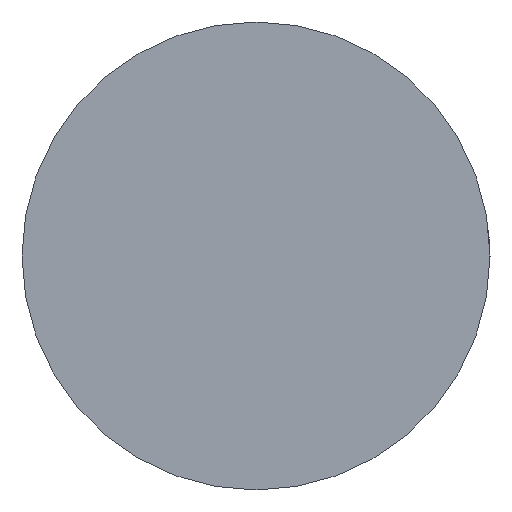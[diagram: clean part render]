
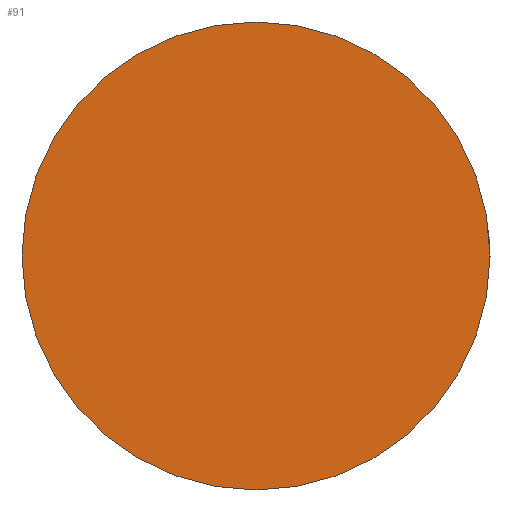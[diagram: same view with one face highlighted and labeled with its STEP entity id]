
A CAD part, left-side view. The second image highlights one B-rep face of the part: STEP entity #91.
In plain terms, the highlighted planar face has unit normal (-1, 0, 0).
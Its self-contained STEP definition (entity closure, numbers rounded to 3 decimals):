
#52=CARTESIAN_POINT('Axis2P3D Location',(0.,0.,0.)) ;
#57=CARTESIAN_POINT('Axis2P3D Location',(0.,0.,0.)) ;
#61=CARTESIAN_POINT('Vertex',(0.,0.,-39.)) ;
#63=CARTESIAN_POINT('Vertex',(0.,39.,0.)) ;
#66=CARTESIAN_POINT('Axis2P3D Location',(0.,0.,0.)) ;
#70=CARTESIAN_POINT('Vertex',(0.,-39.,0.)) ;
#73=CARTESIAN_POINT('Axis2P3D Location',(0.,0.,0.)) ;
#77=CARTESIAN_POINT('Vertex',(0.,0.,39.)) ;
#80=CARTESIAN_POINT('Axis2P3D Location',(0.,0.,0.)) ;
#53=DIRECTION('Axis2P3D Direction',(1.,0.,-0.)) ;
#54=DIRECTION('Axis2P3D XDirection',(-0.,0.,-1.)) ;
#58=DIRECTION('Axis2P3D Direction',(1.,0.,-0.)) ;
#67=DIRECTION('Axis2P3D Direction',(1.,0.,-0.)) ;
#74=DIRECTION('Axis2P3D Direction',(1.,0.,-0.)) ;
#81=DIRECTION('Axis2P3D Direction',(1.,0.,-0.)) ;
#55=AXIS2_PLACEMENT_3D('Plane Axis2P3D',#52,#53,#54) ;
#59=AXIS2_PLACEMENT_3D('Circle Axis2P3D',#57,#58,$) ;
#68=AXIS2_PLACEMENT_3D('Circle Axis2P3D',#66,#67,$) ;
#75=AXIS2_PLACEMENT_3D('Circle Axis2P3D',#73,#74,$) ;
#82=AXIS2_PLACEMENT_3D('Circle Axis2P3D',#80,#81,$) ;
#86=ORIENTED_EDGE('',*,*,#65,.F.) ;
#87=ORIENTED_EDGE('',*,*,#72,.F.) ;
#88=ORIENTED_EDGE('',*,*,#79,.F.) ;
#89=ORIENTED_EDGE('',*,*,#84,.F.) ;
#91=ADVANCED_FACE('395PSF-8',(#90),#56,.F.) ;
#60=CIRCLE('generated circle',#59,39.) ;
#69=CIRCLE('generated circle',#68,39.) ;
#76=CIRCLE('generated circle',#75,39.) ;
#83=CIRCLE('generated circle',#82,39.) ;
#65=EDGE_CURVE('',#62,#64,#60,.T.) ;
#72=EDGE_CURVE('',#71,#62,#69,.T.) ;
#79=EDGE_CURVE('',#78,#71,#76,.T.) ;
#84=EDGE_CURVE('',#64,#78,#83,.T.) ;
#85=EDGE_LOOP('',(#86,#87,#88,#89)) ;
#90=FACE_OUTER_BOUND('',#85,.T.) ;
#56=PLANE('Plane',#55) ;
#62=VERTEX_POINT('',#61) ;
#64=VERTEX_POINT('',#63) ;
#71=VERTEX_POINT('',#70) ;
#78=VERTEX_POINT('',#77) ;
